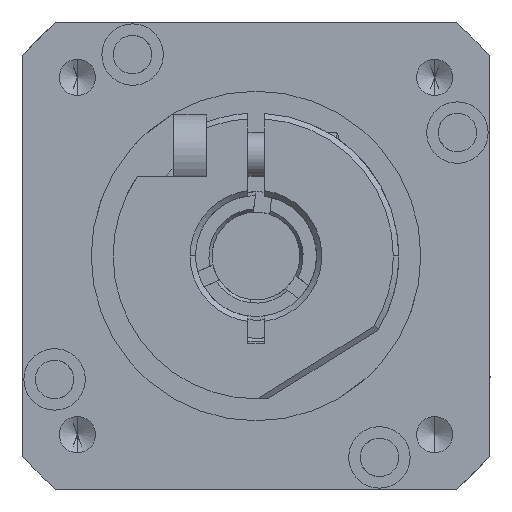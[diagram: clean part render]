
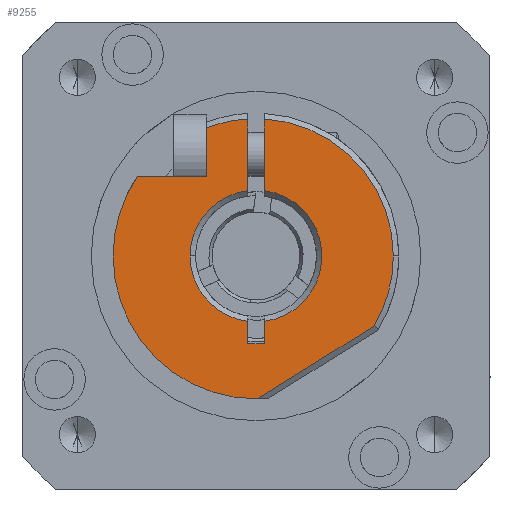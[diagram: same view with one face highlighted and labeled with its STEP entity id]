
A CAD part, left-side view. The second image highlights one B-rep face of the part: STEP entity #9255.
In plain terms, the highlighted planar face has unit normal (-1, 0, 0) as drawn and (0, -1, 0) by its records, which use the part's own axes.
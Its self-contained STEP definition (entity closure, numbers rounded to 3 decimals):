
#346 = VECTOR ( 'NONE', #3620, 1000. ) ;
#680 = VECTOR ( 'NONE', #5524, 1000. ) ;
#891 = CARTESIAN_POINT ( 'NONE',  ( -7.25, -4., 0. ) ) ;
#1173 = VERTEX_POINT ( 'NONE', #12131 ) ;
#1327 = VERTEX_POINT ( 'NONE', #15484 ) ;
#1389 = CARTESIAN_POINT ( 'NONE',  ( 0., -4., 0. ) ) ;
#1682 = VERTEX_POINT ( 'NONE', #2852 ) ;
#1706 = CARTESIAN_POINT ( 'NONE',  ( 0., -4., 0. ) ) ;
#1910 = AXIS2_PLACEMENT_3D ( 'NONE', #2456, #13125, #3982 ) ;
#1951 = CARTESIAN_POINT ( 'NONE',  ( -7.25, -4., -4.5 ) ) ;
#2456 = CARTESIAN_POINT ( 'NONE',  ( 0., -4., 0. ) ) ;
#2803 = ORIENTED_EDGE ( 'NONE', *, *, #6198, .T. ) ;
#2852 = CARTESIAN_POINT ( 'NONE',  ( 0., -4., -6. ) ) ;
#2856 = LINE ( 'NONE', #5064, #6421 ) ;
#2862 = DIRECTION ( 'NONE',  ( 0., -1., 0. ) ) ;
#2898 = CARTESIAN_POINT ( 'NONE',  ( 6.367, -4., 10.757 ) ) ;
#2926 = DIRECTION ( 'NONE',  ( 0., 0., -1. ) ) ;
#2962 = EDGE_CURVE ( 'NONE', #10221, #12743, #11005, .T. ) ;
#3186 = ORIENTED_EDGE ( 'NONE', *, *, #12503, .T. ) ;
#3237 = DIRECTION ( 'NONE',  ( 0., 0., -1. ) ) ;
#3282 = AXIS2_PLACEMENT_3D ( 'NONE', #12528, #3406, #14074 ) ;
#3406 = DIRECTION ( 'NONE',  ( 0., -1., 0. ) ) ;
#3445 = CARTESIAN_POINT ( 'NONE',  ( 0., -4., 0. ) ) ;
#3531 = ORIENTED_EDGE ( 'NONE', *, *, #3534, .F. ) ;
#3534 = EDGE_CURVE ( 'NONE', #1327, #17856, #6951, .T. ) ;
#3620 = DIRECTION ( 'NONE',  ( -1., 0., 0. ) ) ;
#3836 = ORIENTED_EDGE ( 'NONE', *, *, #18951, .F. ) ;
#3982 = DIRECTION ( 'NONE',  ( 0., 0., -1. ) ) ;
#4214 = CARTESIAN_POINT ( 'NONE',  ( 0., -4., 0. ) ) ;
#4640 = ORIENTED_EDGE ( 'NONE', *, *, #11170, .F. ) ;
#4660 = EDGE_CURVE ( 'NONE', #16182, #1173, #11012, .T. ) ;
#4861 = VECTOR ( 'NONE', #14419, 1000. ) ;
#4964 = DIRECTION ( 'NONE',  ( 0., 0., -1. ) ) ;
#5064 = CARTESIAN_POINT ( 'NONE',  ( 5.5, -4., 0.75 ) ) ;
#5188 = LINE ( 'NONE', #17679, #16904 ) ;
#5281 = AXIS2_PLACEMENT_3D ( 'NONE', #15634, #6486, #17153 ) ;
#5486 = CARTESIAN_POINT ( 'NONE',  ( 8., -4., 0. ) ) ;
#5524 = DIRECTION ( 'NONE',  ( -0.53, 0., 0.848 ) ) ;
#5560 = ORIENTED_EDGE ( 'NONE', *, *, #12321, .T. ) ;
#5754 = DIRECTION ( 'NONE',  ( 0., 0., -1. ) ) ;
#6173 = ORIENTED_EDGE ( 'NONE', *, *, #8113, .T. ) ;
#6198 = EDGE_CURVE ( 'NONE', #8004, #1682, #14586, .T. ) ;
#6223 = AXIS2_PLACEMENT_3D ( 'NONE', #4214, #14897, #5754 ) ;
#6421 = VECTOR ( 'NONE', #15749, 1000. ) ;
#6477 = VECTOR ( 'NONE', #16189, 1000. ) ;
#6486 = DIRECTION ( 'NONE',  ( 0., -1., 0. ) ) ;
#6612 = FACE_OUTER_BOUND ( 'NONE', #15506, .T. ) ;
#6951 = LINE ( 'NONE', #891, #6477 ) ;
#6973 = VECTOR ( 'NONE', #18960, 1000. ) ;
#7044 = CARTESIAN_POINT ( 'NONE',  ( 6.303, -4., 10.859 ) ) ;
#7218 = CARTESIAN_POINT ( 'NONE',  ( 0., -4., 12.5 ) ) ;
#7313 = AXIS2_PLACEMENT_3D ( 'NONE', #7380, #2862, #13536 ) ;
#7328 = AXIS2_PLACEMENT_3D ( 'NONE', #7983, #18690, #9512 ) ;
#7380 = CARTESIAN_POINT ( 'NONE',  ( 5.5, -4., 0. ) ) ;
#7467 = CARTESIAN_POINT ( 'NONE',  ( -11.662, -4., -4.5 ) ) ;
#7518 = EDGE_CURVE ( 'NONE', #10221, #19283, #2856, .T. ) ;
#7657 = CARTESIAN_POINT ( 'NONE',  ( 0., -4., -13. ) ) ;
#7723 = ORIENTED_EDGE ( 'NONE', *, *, #11715, .T. ) ;
#7773 = VERTEX_POINT ( 'NONE', #17932 ) ;
#7983 = CARTESIAN_POINT ( 'NONE',  ( 0., -4., 0. ) ) ;
#8004 = VERTEX_POINT ( 'NONE', #18865 ) ;
#8113 = EDGE_CURVE ( 'NONE', #16456, #11354, #19553, .T. ) ;
#8253 = CARTESIAN_POINT ( 'NONE',  ( 5.5, -4., -0.75 ) ) ;
#8510 = DIRECTION ( 'NONE',  ( -1., 0., 0. ) ) ;
#8524 = CIRCLE ( 'NONE', #5281, 12.5 ) ;
#8620 = AXIS2_PLACEMENT_3D ( 'NONE', #3445, #14117, #4964 ) ;
#8631 = AXIS2_PLACEMENT_3D ( 'NONE', #1706, #12368, #3237 ) ;
#8674 = DIRECTION ( 'NONE',  ( 1., 0., 0. ) ) ;
#8967 = ORIENTED_EDGE ( 'NONE', *, *, #18056, .F. ) ;
#9255 = ADVANCED_FACE ( 'NONE', ( #6612 ), #15011, .T. ) ;
#9474 = ORIENTED_EDGE ( 'NONE', *, *, #17819, .T. ) ;
#9512 = DIRECTION ( 'NONE',  ( 0., 0., -1. ) ) ;
#9837 = LINE ( 'NONE', #5486, #4861 ) ;
#9992 = ORIENTED_EDGE ( 'NONE', *, *, #2962, .T. ) ;
#10221 = VERTEX_POINT ( 'NONE', #17555 ) ;
#10347 = CIRCLE ( 'NONE', #3282, 12.5 ) ;
#11005 = CIRCLE ( 'NONE', #7328, 6. ) ;
#11012 = LINE ( 'NONE', #8253, #6973 ) ;
#11170 = EDGE_CURVE ( 'NONE', #17856, #12529, #16615, .T. ) ;
#11354 = VERTEX_POINT ( 'NONE', #13211 ) ;
#11370 = VECTOR ( 'NONE', #8674, 1000. ) ;
#11715 = EDGE_CURVE ( 'NONE', #13584, #19283, #10347, .T. ) ;
#12015 = CARTESIAN_POINT ( 'NONE',  ( 8., -4., 0.75 ) ) ;
#12047 = DIRECTION ( 'NONE',  ( 0., -1., 0. ) ) ;
#12123 = EDGE_CURVE ( 'NONE', #14034, #13584, #16824, .T. ) ;
#12131 = CARTESIAN_POINT ( 'NONE',  ( -5.953, -4., -0.75 ) ) ;
#12321 = EDGE_CURVE ( 'NONE', #1682, #1173, #15849, .T. ) ;
#12368 = DIRECTION ( 'NONE',  ( 0., 1., 0. ) ) ;
#12447 = EDGE_CURVE ( 'NONE', #7773, #16317, #9837, .T. ) ;
#12503 = EDGE_CURVE ( 'NONE', #1327, #16456, #16083, .T. ) ;
#12528 = CARTESIAN_POINT ( 'NONE',  ( 0., -4., 0. ) ) ;
#12529 = VERTEX_POINT ( 'NONE', #7467 ) ;
#12743 = VERTEX_POINT ( 'NONE', #18542 ) ;
#12871 = ORIENTED_EDGE ( 'NONE', *, *, #7518, .F. ) ;
#13117 = AXIS2_PLACEMENT_3D ( 'NONE', #1389, #12047, #2926 ) ;
#13125 = DIRECTION ( 'NONE',  ( 0., -1., 0. ) ) ;
#13211 = CARTESIAN_POINT ( 'NONE',  ( 12.999, -4., 0.144 ) ) ;
#13213 = CARTESIAN_POINT ( 'NONE',  ( -12.477, -4., -0.75 ) ) ;
#13536 = DIRECTION ( 'NONE',  ( 0., 0., -1. ) ) ;
#13584 = VERTEX_POINT ( 'NONE', #7218 ) ;
#14034 = VERTEX_POINT ( 'NONE', #2898 ) ;
#14074 = DIRECTION ( 'NONE',  ( 0., 0., -1. ) ) ;
#14111 = ORIENTED_EDGE ( 'NONE', *, *, #16731, .T. ) ;
#14117 = DIRECTION ( 'NONE',  ( 0., 1., 0. ) ) ;
#14419 = DIRECTION ( 'NONE',  ( 0., 0., 1. ) ) ;
#14586 = CIRCLE ( 'NONE', #8631, 6. ) ;
#14897 = DIRECTION ( 'NONE',  ( 0., -1., 0. ) ) ;
#15011 = PLANE ( 'NONE',  #7313 ) ;
#15363 = ORIENTED_EDGE ( 'NONE', *, *, #12447, .F. ) ;
#15484 = CARTESIAN_POINT ( 'NONE',  ( -7.25, -4., -10.791 ) ) ;
#15506 = EDGE_LOOP ( 'NONE', ( #3836, #2803, #5560, #17092, #9474, #4640, #3531, #3186, #6173, #14111, #16382, #7723, #12871, #9992, #8967, #15363 ) ) ;
#15634 = CARTESIAN_POINT ( 'NONE',  ( 0., -4., 0. ) ) ;
#15749 = DIRECTION ( 'NONE',  ( -1., 0., 0. ) ) ;
#15849 = CIRCLE ( 'NONE', #8620, 6. ) ;
#16083 = CIRCLE ( 'NONE', #6223, 13. ) ;
#16182 = VERTEX_POINT ( 'NONE', #13213 ) ;
#16189 = DIRECTION ( 'NONE',  ( 0., 0., 1. ) ) ;
#16317 = VERTEX_POINT ( 'NONE', #12015 ) ;
#16382 = ORIENTED_EDGE ( 'NONE', *, *, #12123, .T. ) ;
#16456 = VERTEX_POINT ( 'NONE', #7657 ) ;
#16615 = LINE ( 'NONE', #18894, #346 ) ;
#16731 = EDGE_CURVE ( 'NONE', #11354, #14034, #16941, .T. ) ;
#16824 = CIRCLE ( 'NONE', #13117, 12.5 ) ;
#16890 = LINE ( 'NONE', #17838, #11370 ) ;
#16904 = VECTOR ( 'NONE', #8510, 1000. ) ;
#16941 = LINE ( 'NONE', #7044, #680 ) ;
#17092 = ORIENTED_EDGE ( 'NONE', *, *, #4660, .F. ) ;
#17153 = DIRECTION ( 'NONE',  ( 0., 0., -1. ) ) ;
#17555 = CARTESIAN_POINT ( 'NONE',  ( -5.953, -4., 0.75 ) ) ;
#17679 = CARTESIAN_POINT ( 'NONE',  ( 5.5, -4., 0.75 ) ) ;
#17819 = EDGE_CURVE ( 'NONE', #16182, #12529, #8524, .T. ) ;
#17838 = CARTESIAN_POINT ( 'NONE',  ( 5.5, -4., -0.75 ) ) ;
#17856 = VERTEX_POINT ( 'NONE', #1951 ) ;
#17932 = CARTESIAN_POINT ( 'NONE',  ( 8., -4., -0.75 ) ) ;
#18056 = EDGE_CURVE ( 'NONE', #16317, #12743, #5188, .T. ) ;
#18225 = CARTESIAN_POINT ( 'NONE',  ( -12.477, -4., 0.75 ) ) ;
#18542 = CARTESIAN_POINT ( 'NONE',  ( 5.953, -4., 0.75 ) ) ;
#18690 = DIRECTION ( 'NONE',  ( 0., 1., 0. ) ) ;
#18865 = CARTESIAN_POINT ( 'NONE',  ( 5.953, -4., -0.75 ) ) ;
#18894 = CARTESIAN_POINT ( 'NONE',  ( 5.5, -4., -4.5 ) ) ;
#18951 = EDGE_CURVE ( 'NONE', #8004, #7773, #16890, .T. ) ;
#18960 = DIRECTION ( 'NONE',  ( 1., 0., 0. ) ) ;
#19283 = VERTEX_POINT ( 'NONE', #18225 ) ;
#19553 = CIRCLE ( 'NONE', #1910, 13. ) ;
